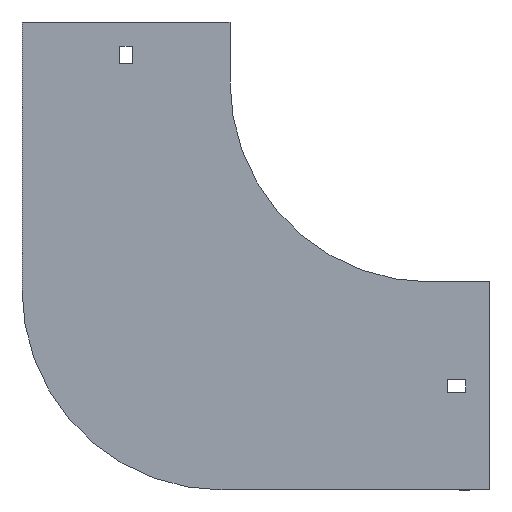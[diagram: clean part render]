
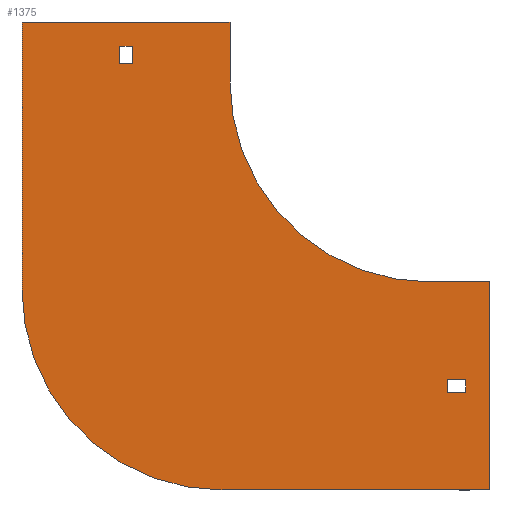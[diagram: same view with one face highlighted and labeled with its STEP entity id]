
A CAD part, front view. The second image highlights one B-rep face of the part: STEP entity #1375.
In plain terms, the highlighted planar face has unit normal (0, -1, 0).
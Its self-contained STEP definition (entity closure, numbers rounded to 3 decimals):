
#4 = EDGE_CURVE ( 'NONE', #1362, #435, #1203, .T. ) ;
#14 = LINE ( 'NONE', #1384, #1390 ) ;
#18 = LINE ( 'NONE', #489, #595 ) ;
#45 = LINE ( 'NONE', #1508, #1316 ) ;
#72 = CARTESIAN_POINT ( 'NONE',  ( -104., 0., -204. ) ) ;
#74 = ORIENTED_EDGE ( 'NONE', *, *, #1851, .T. ) ;
#85 = ORIENTED_EDGE ( 'NONE', *, *, #826, .F. ) ;
#102 = CARTESIAN_POINT ( 'NONE',  ( -204., 0., -104. ) ) ;
#122 = VECTOR ( 'NONE', #385, 1000. ) ;
#126 = EDGE_CURVE ( 'NONE', #1108, #1562, #1843, .T. ) ;
#149 = CARTESIAN_POINT ( 'NONE',  ( -204., 0., 30. ) ) ;
#151 = VECTOR ( 'NONE', #1104, 1000. ) ;
#169 = CARTESIAN_POINT ( 'NONE',  ( -104., 0., -104. ) ) ;
#182 = CARTESIAN_POINT ( 'NONE',  ( -100., 0., 0. ) ) ;
#220 = VECTOR ( 'NONE', #248, 1000. ) ;
#224 = VECTOR ( 'NONE', #745, 1000. ) ;
#231 = DIRECTION ( 'NONE',  ( 0., -1., 0. ) ) ;
#248 = DIRECTION ( 'NONE',  ( 0., 0., -1. ) ) ;
#262 = CARTESIAN_POINT ( 'NONE',  ( -155.25, 0., 18. ) ) ;
#271 = VERTEX_POINT ( 'NONE', #1771 ) ;
#301 = LINE ( 'NONE', #1512, #1068 ) ;
#380 = VECTOR ( 'NONE', #1915, 1000. ) ;
#385 = DIRECTION ( 'NONE',  ( 0., 0., -1. ) ) ;
#414 = LINE ( 'NONE', #974, #220 ) ;
#418 = CARTESIAN_POINT ( 'NONE',  ( -204., 0., 30. ) ) ;
#435 = VERTEX_POINT ( 'NONE', #102 ) ;
#450 = CARTESIAN_POINT ( 'NONE',  ( -204., 0., -104. ) ) ;
#455 = EDGE_CURVE ( 'NONE', #1946, #1108, #998, .T. ) ;
#470 = DIRECTION ( 'NONE',  ( 0., 0., 1. ) ) ;
#480 = VECTOR ( 'NONE', #940, 1000. ) ;
#488 = CARTESIAN_POINT ( 'NONE',  ( -148.75, 0., 9. ) ) ;
#489 = CARTESIAN_POINT ( 'NONE',  ( 9., 0., -148.75 ) ) ;
#495 = VERTEX_POINT ( 'NONE', #1751 ) ;
#507 = LINE ( 'NONE', #1704, #660 ) ;
#509 = ORIENTED_EDGE ( 'NONE', *, *, #455, .F. ) ;
#516 = CARTESIAN_POINT ( 'NONE',  ( 9., 0., -155.25 ) ) ;
#562 = DIRECTION ( 'NONE',  ( 0., 0., -1. ) ) ;
#584 = DIRECTION ( 'NONE',  ( 0., 0., 1. ) ) ;
#593 = EDGE_CURVE ( 'NONE', #1773, #862, #1199, .T. ) ;
#595 = VECTOR ( 'NONE', #1545, 1000. ) ;
#628 = ORIENTED_EDGE ( 'NONE', *, *, #126, .F. ) ;
#642 = VERTEX_POINT ( 'NONE', #1933 ) ;
#656 = EDGE_CURVE ( 'NONE', #435, #915, #904, .T. ) ;
#660 = VECTOR ( 'NONE', #1094, 1000. ) ;
#695 = CARTESIAN_POINT ( 'NONE',  ( 18., 0., -155.25 ) ) ;
#720 = EDGE_CURVE ( 'NONE', #1609, #1893, #18, .T. ) ;
#745 = DIRECTION ( 'NONE',  ( 1., 0., 0. ) ) ;
#776 = VERTEX_POINT ( 'NONE', #1239 ) ;
#823 = EDGE_CURVE ( 'NONE', #1756, #1635, #1845, .T. ) ;
#826 = EDGE_CURVE ( 'NONE', #642, #1362, #507, .T. ) ;
#862 = VERTEX_POINT ( 'NONE', #262 ) ;
#882 = CARTESIAN_POINT ( 'NONE',  ( 9., 0., -148.75 ) ) ;
#889 = ORIENTED_EDGE ( 'NONE', *, *, #1598, .T. ) ;
#903 = AXIS2_PLACEMENT_3D ( 'NONE', #1302, #1900, #562 ) ;
#904 = LINE ( 'NONE', #450, #1158 ) ;
#915 = VERTEX_POINT ( 'NONE', #418 ) ;
#940 = DIRECTION ( 'NONE',  ( 0., 0., -1. ) ) ;
#960 = CARTESIAN_POINT ( 'NONE',  ( 9., 0., -155.25 ) ) ;
#968 = VECTOR ( 'NONE', #1450, 1000. ) ;
#974 = CARTESIAN_POINT ( 'NONE',  ( 30., 0., -100. ) ) ;
#989 = LINE ( 'NONE', #960, #122 ) ;
#998 = LINE ( 'NONE', #1429, #380 ) ;
#1019 = EDGE_LOOP ( 'NONE', ( #1602, #889, #1633, #74 ) ) ;
#1028 = ORIENTED_EDGE ( 'NONE', *, *, #1320, .F. ) ;
#1034 = DIRECTION ( 'NONE',  ( -1., 0., 0. ) ) ;
#1046 = LINE ( 'NONE', #149, #224 ) ;
#1053 = ORIENTED_EDGE ( 'NONE', *, *, #1904, .F. ) ;
#1068 = VECTOR ( 'NONE', #1034, 1000. ) ;
#1094 = DIRECTION ( 'NONE',  ( -1., 0., 0. ) ) ;
#1104 = DIRECTION ( 'NONE',  ( 1., 0., 0. ) ) ;
#1108 = VERTEX_POINT ( 'NONE', #182 ) ;
#1120 = CARTESIAN_POINT ( 'NONE',  ( -100., 0., 30. ) ) ;
#1125 = EDGE_CURVE ( 'NONE', #495, #271, #1405, .T. ) ;
#1128 = CARTESIAN_POINT ( 'NONE',  ( 9., 0., -155.25 ) ) ;
#1158 = VECTOR ( 'NONE', #470, 1000. ) ;
#1170 = AXIS2_PLACEMENT_3D ( 'NONE', #169, #1403, #1676 ) ;
#1184 = DIRECTION ( 'NONE',  ( 1., 0., 0. ) ) ;
#1199 = LINE ( 'NONE', #1323, #1908 ) ;
#1203 = CIRCLE ( 'NONE', #1170, 100. ) ;
#1213 = CARTESIAN_POINT ( 'NONE',  ( 0., 0., -100. ) ) ;
#1239 = CARTESIAN_POINT ( 'NONE',  ( 30., 0., -100. ) ) ;
#1241 = CARTESIAN_POINT ( 'NONE',  ( 18., 0., -155.25 ) ) ;
#1256 = ORIENTED_EDGE ( 'NONE', *, *, #720, .F. ) ;
#1266 = EDGE_CURVE ( 'NONE', #1635, #1609, #1753, .T. ) ;
#1276 = EDGE_CURVE ( 'NONE', #1893, #1756, #989, .T. ) ;
#1283 = FACE_BOUND ( 'NONE', #1019, .T. ) ;
#1302 = CARTESIAN_POINT ( 'NONE',  ( 0., 0., 0. ) ) ;
#1316 = VECTOR ( 'NONE', #1688, 1000. ) ;
#1320 = EDGE_CURVE ( 'NONE', #776, #642, #414, .T. ) ;
#1323 = CARTESIAN_POINT ( 'NONE',  ( -155.25, 0., 9. ) ) ;
#1329 = EDGE_LOOP ( 'NONE', ( #1679, #1711, #1591, #1256 ) ) ;
#1362 = VERTEX_POINT ( 'NONE', #72 ) ;
#1375 = ADVANCED_FACE ( 'NONE', ( #1283, #1713, #1879 ), #1891, .T. ) ;
#1384 = CARTESIAN_POINT ( 'NONE',  ( 0., 0., -100. ) ) ;
#1390 = VECTOR ( 'NONE', #1184, 1000. ) ;
#1403 = DIRECTION ( 'NONE',  ( 0., 1., 0. ) ) ;
#1405 = LINE ( 'NONE', #488, #480 ) ;
#1429 = CARTESIAN_POINT ( 'NONE',  ( -100., 0., 30. ) ) ;
#1450 = DIRECTION ( 'NONE',  ( 0., 0., 1. ) ) ;
#1498 = EDGE_LOOP ( 'NONE', ( #1620, #1901, #1840, #85, #1028, #1053, #628, #509 ) ) ;
#1508 = CARTESIAN_POINT ( 'NONE',  ( -155.25, 0., 18. ) ) ;
#1512 = CARTESIAN_POINT ( 'NONE',  ( -155.25, 0., 9. ) ) ;
#1545 = DIRECTION ( 'NONE',  ( -1., 0., 0. ) ) ;
#1550 = CARTESIAN_POINT ( 'NONE',  ( 18., 0., -148.75 ) ) ;
#1562 = VERTEX_POINT ( 'NONE', #1213 ) ;
#1582 = CARTESIAN_POINT ( 'NONE',  ( -155.25, 0., 9. ) ) ;
#1591 = ORIENTED_EDGE ( 'NONE', *, *, #1276, .F. ) ;
#1598 = EDGE_CURVE ( 'NONE', #862, #495, #45, .T. ) ;
#1602 = ORIENTED_EDGE ( 'NONE', *, *, #593, .T. ) ;
#1609 = VERTEX_POINT ( 'NONE', #1550 ) ;
#1620 = ORIENTED_EDGE ( 'NONE', *, *, #1812, .F. ) ;
#1633 = ORIENTED_EDGE ( 'NONE', *, *, #1125, .T. ) ;
#1635 = VERTEX_POINT ( 'NONE', #1241 ) ;
#1676 = DIRECTION ( 'NONE',  ( 0., 0., 1. ) ) ;
#1679 = ORIENTED_EDGE ( 'NONE', *, *, #1266, .F. ) ;
#1688 = DIRECTION ( 'NONE',  ( 1., 0., 0. ) ) ;
#1701 = DIRECTION ( 'NONE',  ( 0., 0., -1. ) ) ;
#1704 = CARTESIAN_POINT ( 'NONE',  ( 30., 0., -204. ) ) ;
#1711 = ORIENTED_EDGE ( 'NONE', *, *, #823, .F. ) ;
#1713 = FACE_OUTER_BOUND ( 'NONE', #1498, .T. ) ;
#1721 = CARTESIAN_POINT ( 'NONE',  ( 0., 0., 0. ) ) ;
#1751 = CARTESIAN_POINT ( 'NONE',  ( -148.75, 0., 18. ) ) ;
#1753 = LINE ( 'NONE', #695, #968 ) ;
#1756 = VERTEX_POINT ( 'NONE', #1128 ) ;
#1771 = CARTESIAN_POINT ( 'NONE',  ( -148.75, 0., 9. ) ) ;
#1773 = VERTEX_POINT ( 'NONE', #1582 ) ;
#1812 = EDGE_CURVE ( 'NONE', #915, #1946, #1046, .T. ) ;
#1813 = AXIS2_PLACEMENT_3D ( 'NONE', #1721, #231, #1701 ) ;
#1840 = ORIENTED_EDGE ( 'NONE', *, *, #4, .F. ) ;
#1843 = CIRCLE ( 'NONE', #1813, 100. ) ;
#1845 = LINE ( 'NONE', #516, #151 ) ;
#1851 = EDGE_CURVE ( 'NONE', #271, #1773, #301, .T. ) ;
#1879 = FACE_BOUND ( 'NONE', #1329, .T. ) ;
#1891 = PLANE ( 'NONE',  #903 ) ;
#1893 = VERTEX_POINT ( 'NONE', #882 ) ;
#1900 = DIRECTION ( 'NONE',  ( 0., -1., 0. ) ) ;
#1901 = ORIENTED_EDGE ( 'NONE', *, *, #656, .F. ) ;
#1904 = EDGE_CURVE ( 'NONE', #1562, #776, #14, .T. ) ;
#1908 = VECTOR ( 'NONE', #584, 1000. ) ;
#1915 = DIRECTION ( 'NONE',  ( 0., 0., -1. ) ) ;
#1933 = CARTESIAN_POINT ( 'NONE',  ( 30., 0., -204. ) ) ;
#1946 = VERTEX_POINT ( 'NONE', #1120 ) ;
